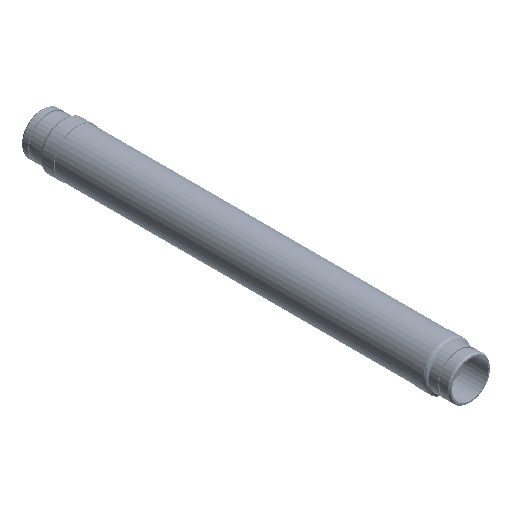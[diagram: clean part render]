
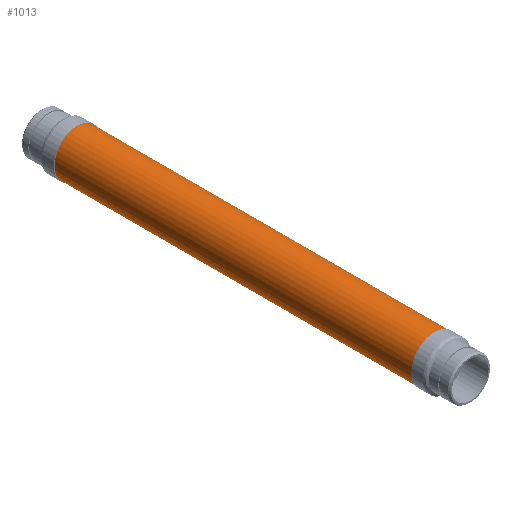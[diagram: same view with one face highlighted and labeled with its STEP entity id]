
A CAD part, isometric view. The second image highlights one B-rep face of the part: STEP entity #1013.
In plain terms, the highlighted cylindrical face has radius 48.92 mm (diameter 97.841 mm), a full revolution.
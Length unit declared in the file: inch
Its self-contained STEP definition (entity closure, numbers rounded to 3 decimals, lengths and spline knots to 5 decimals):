
#979=CARTESIAN_POINT('',(-1.926,-16.0,0.));
#980=VERTEX_POINT('',#979);
#981=CARTESIAN_POINT('',(0.0,-16.0,0.0));
#982=DIRECTION('',(0.0,1.0,0.0));
#983=DIRECTION('',(1.0,0.0,0.0));
#984=AXIS2_PLACEMENT_3D('',#981,#982,#983);
#985=CIRCLE('',#984,1.926);
#986=EDGE_CURVE('',#980,#980,#985,.T.);
#994=CARTESIAN_POINT('',(0.0,0.0,0.0));
#995=DIRECTION('',(0.0,1.0,0.0));
#996=DIRECTION('',(1.0,0.0,0.0));
#997=AXIS2_PLACEMENT_3D('',#994,#995,#996);
#998=CYLINDRICAL_SURFACE('',#997,1.926);
#999=ORIENTED_EDGE('',*,*,#986,.T.);
#1000=EDGE_LOOP('',(#999));
#1001=FACE_OUTER_BOUND('',#1000,.T.);
#1002=CARTESIAN_POINT('',(-1.926,16.0,0.));
#1003=VERTEX_POINT('',#1002);
#1004=CARTESIAN_POINT('',(0.0,16.0,0.0));
#1005=DIRECTION('',(0.0,-1.0,0.0));
#1006=DIRECTION('',(1.0,0.0,0.0));
#1007=AXIS2_PLACEMENT_3D('',#1004,#1005,#1006);
#1008=CIRCLE('',#1007,1.926);
#1009=EDGE_CURVE('',#1003,#1003,#1008,.T.);
#1010=ORIENTED_EDGE('',*,*,#1009,.T.);
#1011=EDGE_LOOP('',(#1010));
#1012=FACE_BOUND('',#1011,.T.);
#1013=ADVANCED_FACE('',(#1001,#1012),#998,.T.);
